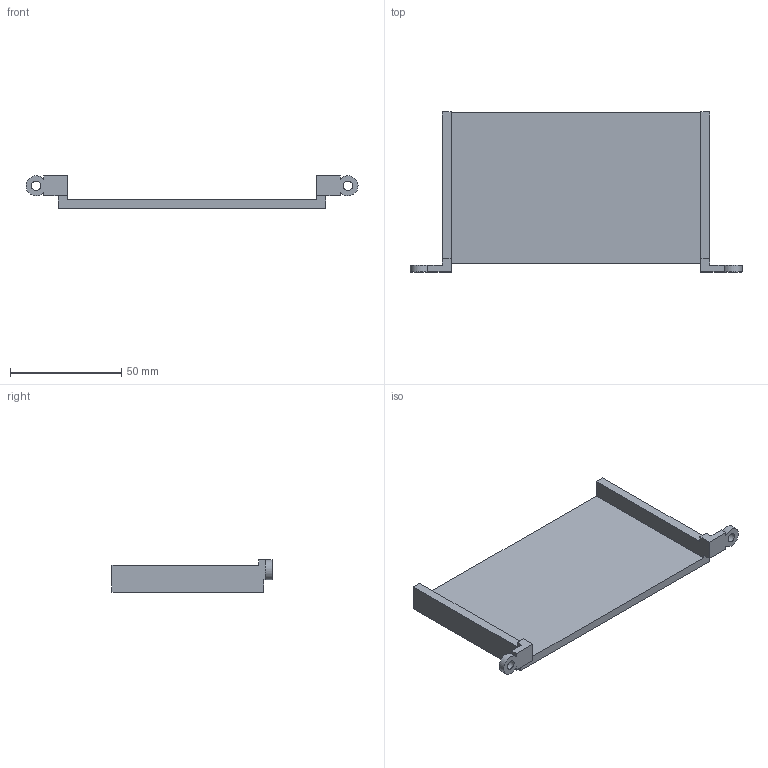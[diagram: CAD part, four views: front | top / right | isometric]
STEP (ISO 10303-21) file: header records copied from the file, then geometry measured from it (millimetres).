
FILE_DESCRIPTION(('FreeCAD Model'),'2;1');
FILE_NAME('Open CASCADE Shape Model','2026-10-14T02:28:56',('FreeCAD'),( 'FreeCAD'),'Open CASCADE STEP processor 7.8','FreeCAD','Unknown');
FILE_SCHEMA(('AUTOMOTIVE_DESIGN { 1 0 10303 214 1 1 1 1 }'));
Length unit declared in the file: millimetre
Products named in the file (1): Open CASCADE STEP translator 7.8 26
Bounding box: 148.98 x 71.8 x 14.5 mm (x, y, z)
Volume: 37936 mm3; surface area: 21061.4 mm2
Topology: 1 solids, 1 shells, 28 faces, 82 edges, 56 vertices
Faces by surface type: plane 24, cylinder 4
Full cylindrical faces by diameter (mm): 4.2 x2
Entity records: 948 total; most frequent: CARTESIAN_POINT 167, ORIENTED_EDGE 164, DIRECTION 152, EDGE_CURVE 82, LINE 70, VECTOR 70, VERTEX_POINT 56, AXIS2_PLACEMENT_3D 41
